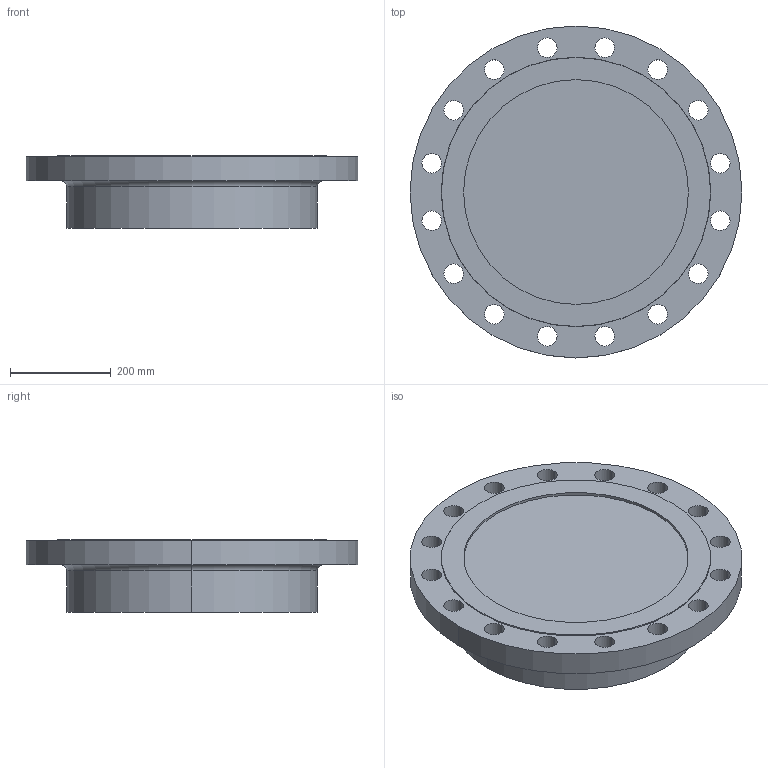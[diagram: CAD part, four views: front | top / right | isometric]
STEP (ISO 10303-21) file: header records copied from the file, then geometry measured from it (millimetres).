
FILE_DESCRIPTION (( 'STEP AP214' ), '1' );
FILE_NAME ('PN40 DN400 Type 21(i) - Type G Face.STEP', '2019-01-05T23:12:49', ( '' ), ( '' ), 'SwSTEP 2.0', 'SolidWorks 2019', '' );
FILE_SCHEMA (( 'AUTOMOTIVE_DESIGN' ));
Length unit declared in the file: millimetre
Products named in the file (1): PN40 DN400 Type 21(i) - Type G Face
Bounding box: 660 x 660 x 145 mm (x, y, z)
Volume: 33644516 mm3; surface area: 990815.6 mm2
Topology: 1 solids, 1 shells, 47 faces, 124 edges, 82 vertices
Faces by surface type: cylinder 38, plane 5, torus 2, cone 2
Entity records: 1604 total; most frequent: DIRECTION 304, CARTESIAN_POINT 254, ORIENTED_EDGE 248, AXIS2_PLACEMENT_3D 132, EDGE_CURVE 124, CIRCLE 84, EDGE_LOOP 82, VERTEX_POINT 82
